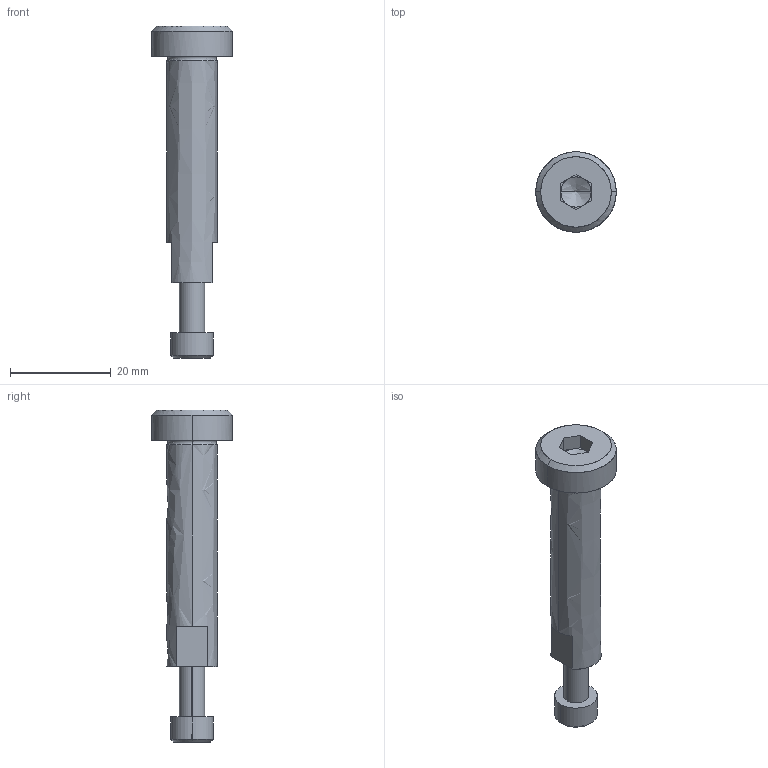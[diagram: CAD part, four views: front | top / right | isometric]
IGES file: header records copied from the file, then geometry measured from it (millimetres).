
Global section: file name: E:\UnigraphicsGraphicData\MISUMI_PRESS-PARTS\IGES\3d_sbt10-45_05060_r00.igs; native system: NX V5.0; preprocessor: UGS NX IGES V5.0; author: MISUMI; date: 20110105.162432; units: millimetre
Bounding box: 16 x 16 x 66 mm (x, y, z)
Surface area: 3074.5 mm2 (no closed solid volume)
Topology: 0 solids, 0 shells, 56 faces, 300 edges, 296 vertices
Faces by surface type: bspline 56
